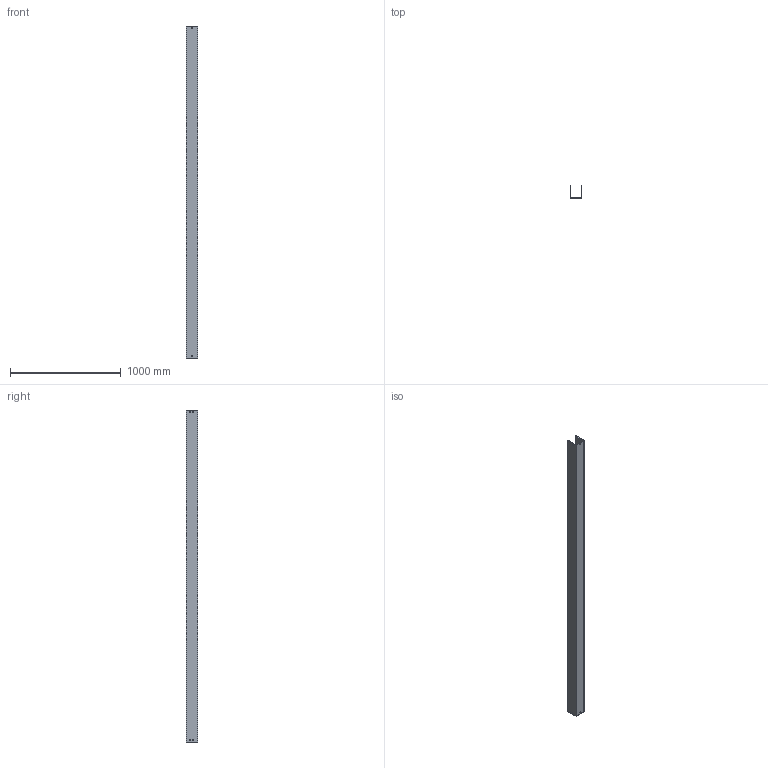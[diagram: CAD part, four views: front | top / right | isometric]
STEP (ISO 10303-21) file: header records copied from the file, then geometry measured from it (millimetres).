
FILE_DESCRIPTION (( 'STEP AP214' ), '1' );
FILE_NAME ('03F3D100.step', '2025-02-21T13:16:10', ( '' ), ( '' ), 'SwSTEP 2.0', 'SolidWorks 2023', '' );
FILE_SCHEMA (( 'AUTOMOTIVE_DESIGN' ));
Length unit declared in the file: millimetre
Products named in the file (1): 03F3D100
Bounding box: 104 x 104 x 3000 mm (x, y, z)
Volume: 3200130.5 mm3; surface area: 1852950 mm2
Topology: 1 solids, 1 shells, 50 faces, 144 edges, 96 vertices
Faces by surface type: plane 50
Entity records: 1671 total; most frequent: CARTESIAN_POINT 291, ORIENTED_EDGE 288, DIRECTION 246, LINE 144, EDGE_CURVE 144, VECTOR 144, VERTEX_POINT 96, EDGE_LOOP 70
